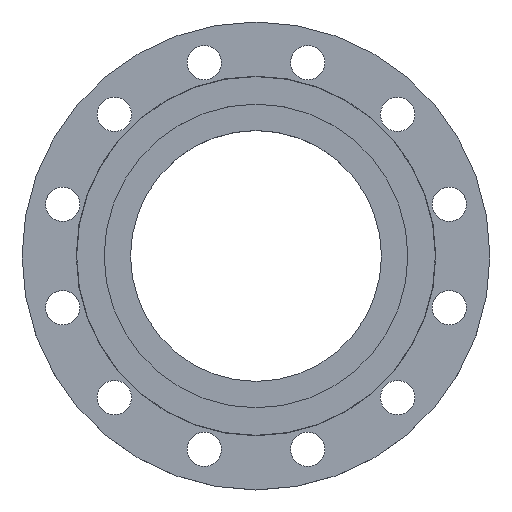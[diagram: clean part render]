
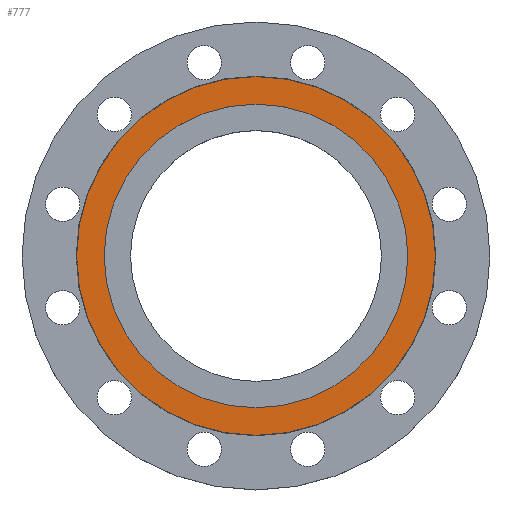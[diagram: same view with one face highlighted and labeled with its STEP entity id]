
A CAD part, top view. The second image highlights one B-rep face of the part: STEP entity #777.
In plain terms, the highlighted planar face has unit normal (0, 0, 1).
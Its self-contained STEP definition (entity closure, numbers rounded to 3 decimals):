
#12 = CIRCLE ( 'NONE', #19, 172.5 ) ;
#19 = AXIS2_PLACEMENT_3D ( 'NONE', #845, #844, #841 ) ;
#44 = AXIS2_PLACEMENT_3D ( 'NONE', #769, #772, #773 ) ;
#73 = CARTESIAN_POINT ( 'NONE',  ( 146., 0., 0. ) ) ;
#105 = CARTESIAN_POINT ( 'NONE',  ( -172.5, 0., 0. ) ) ;
#113 = CARTESIAN_POINT ( 'NONE',  ( 172.5, 0., 0. ) ) ;
#120 = CARTESIAN_POINT ( 'NONE',  ( -146., 0., 0. ) ) ;
#199 = EDGE_CURVE ( 'NONE', #1273, #1268, #12, .T. ) ;
#219 = DIRECTION ( 'NONE',  ( -1., 0., 0. ) ) ;
#220 = DIRECTION ( 'NONE',  ( 0., 0., -1. ) ) ;
#221 = CARTESIAN_POINT ( 'NONE',  ( 0., 0., 0. ) ) ;
#232 = DIRECTION ( 'NONE',  ( -1., 0., 0. ) ) ;
#233 = DIRECTION ( 'NONE',  ( 0., 0., -1. ) ) ;
#234 = CARTESIAN_POINT ( 'NONE',  ( 0., 0., 0. ) ) ;
#338 = EDGE_CURVE ( 'NONE', #1264, #1313, #550, .T. ) ;
#415 = AXIS2_PLACEMENT_3D ( 'NONE', #542, #541, #540 ) ;
#540 = DIRECTION ( 'NONE',  ( 1., 0., 0. ) ) ;
#541 = DIRECTION ( 'NONE',  ( 0., 0., 1. ) ) ;
#542 = CARTESIAN_POINT ( 'NONE',  ( 0., 0., 0. ) ) ;
#543 = PLANE ( 'NONE',  #415 ) ;
#544 = FACE_BOUND ( 'NONE', #1387, .T. ) ;
#545 = FACE_OUTER_BOUND ( 'NONE', #1368, .T. ) ;
#550 = CIRCLE ( 'NONE', #44, 146. ) ;
#769 = CARTESIAN_POINT ( 'NONE',  ( 0., 0., 0. ) ) ;
#772 = DIRECTION ( 'NONE',  ( 0., 0., -1. ) ) ;
#773 = DIRECTION ( 'NONE',  ( -1., 0., 0. ) ) ;
#777 = ADVANCED_FACE ( 'NONE', ( #545, #544 ), #543, .T. ) ;
#841 = DIRECTION ( 'NONE',  ( -1., 0., 0. ) ) ;
#844 = DIRECTION ( 'NONE',  ( 0., 0., -1. ) ) ;
#845 = CARTESIAN_POINT ( 'NONE',  ( 0., 0., 0. ) ) ;
#1085 = ORIENTED_EDGE ( 'NONE', *, *, #199, .F. ) ;
#1086 = ORIENTED_EDGE ( 'NONE', *, *, #1204, .F. ) ;
#1087 = ORIENTED_EDGE ( 'NONE', *, *, #338, .T. ) ;
#1088 = ORIENTED_EDGE ( 'NONE', *, *, #1211, .T. ) ;
#1204 = EDGE_CURVE ( 'NONE', #1268, #1273, #1380, .T. ) ;
#1211 = EDGE_CURVE ( 'NONE', #1313, #1264, #1321, .T. ) ;
#1264 = VERTEX_POINT ( 'NONE', #120 ) ;
#1268 = VERTEX_POINT ( 'NONE', #113 ) ;
#1273 = VERTEX_POINT ( 'NONE', #105 ) ;
#1313 = VERTEX_POINT ( 'NONE', #73 ) ;
#1316 = AXIS2_PLACEMENT_3D ( 'NONE', #221, #220, #219 ) ;
#1321 = CIRCLE ( 'NONE', #1316, 146. ) ;
#1361 = AXIS2_PLACEMENT_3D ( 'NONE', #234, #233, #232 ) ;
#1368 = EDGE_LOOP ( 'NONE', ( #1085, #1086 ) ) ;
#1380 = CIRCLE ( 'NONE', #1361, 172.5 ) ;
#1387 = EDGE_LOOP ( 'NONE', ( #1087, #1088 ) ) ;
